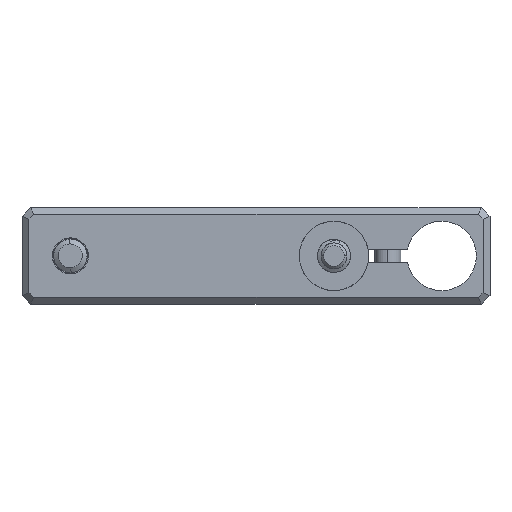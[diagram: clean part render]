
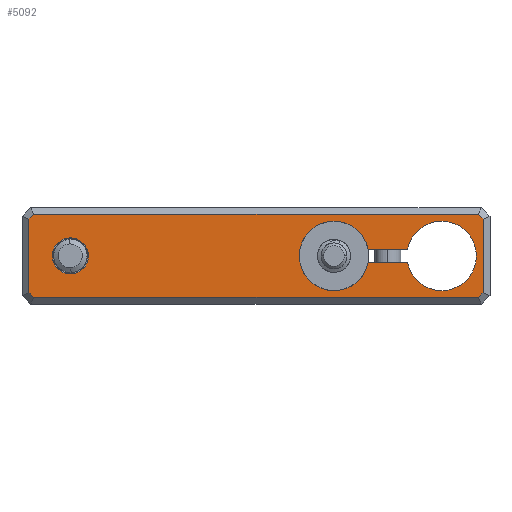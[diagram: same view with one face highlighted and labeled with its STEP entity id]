
A CAD part, front view. The second image highlights one B-rep face of the part: STEP entity #5092.
In plain terms, the highlighted planar face has unit normal (0, -1, 0).
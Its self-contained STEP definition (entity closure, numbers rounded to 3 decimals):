
#2371=DIRECTION('',(-1.,0.,0.));
#2372=VECTOR('',#2371,4.562);
#2373=CARTESIAN_POINT('',(38.984,82.55,0.762));
#2374=LINE('',#2373,#2372);
#2439=DIRECTION('',(1.,0.,0.));
#2440=VECTOR('',#2439,4.562);
#2441=CARTESIAN_POINT('',(34.422,82.55,-0.762));
#2442=LINE('',#2441,#2440);
#2462=CARTESIAN_POINT('',(42.926,82.55,0.));
#2463=DIRECTION('',(0.,1.,0.));
#2464=DIRECTION('',(-0.982,0.,0.19));
#2465=AXIS2_PLACEMENT_3D('',#2462,#2463,#2464);
#2467=CARTESIAN_POINT('',(0.,82.55,0.));
#2468=DIRECTION('',(0.,1.,0.));
#2469=DIRECTION('',(-1.,0.,0.));
#2470=AXIS2_PLACEMENT_3D('',#2467,#2468,#2469);
#2472=CARTESIAN_POINT('',(0.,82.55,0.));
#2473=DIRECTION('',(0.,1.,0.));
#2474=DIRECTION('',(1.,0.,0.));
#2475=AXIS2_PLACEMENT_3D('',#2472,#2473,#2474);
#2477=DIRECTION('',(-0.707,0.,0.707));
#2478=VECTOR('',#2477,0.751);
#2479=CARTESIAN_POINT('',(47.714,82.55,4.257));
#2480=LINE('',#2479,#2478);
#2481=DIRECTION('',(0.,0.,1.));
#2482=VECTOR('',#2481,8.513);
#2483=CARTESIAN_POINT('',(47.714,82.55,-4.257));
#2484=LINE('',#2483,#2482);
#2485=DIRECTION('',(0.707,0.,0.707));
#2486=VECTOR('',#2485,0.751);
#2487=CARTESIAN_POINT('',(47.183,82.55,-4.788));
#2488=LINE('',#2487,#2486);
#2489=DIRECTION('',(1.,0.,0.));
#2490=VECTOR('',#2489,51.439);
#2491=CARTESIAN_POINT('',(-4.257,82.55,-4.788));
#2492=LINE('',#2491,#2490);
#2493=DIRECTION('',(0.707,0.,-0.707));
#2494=VECTOR('',#2493,0.751);
#2495=CARTESIAN_POINT('',(-4.788,82.55,-4.257));
#2496=LINE('',#2495,#2494);
#2497=DIRECTION('',(0.,0.,-1.));
#2498=VECTOR('',#2497,8.513);
#2499=CARTESIAN_POINT('',(-4.788,82.55,4.257));
#2500=LINE('',#2499,#2498);
#2501=DIRECTION('',(-0.707,0.,-0.707));
#2502=VECTOR('',#2501,0.751);
#2503=CARTESIAN_POINT('',(-4.257,82.55,4.788));
#2504=LINE('',#2503,#2502);
#2505=DIRECTION('',(-1.,0.,0.));
#2506=VECTOR('',#2505,51.439);
#2507=CARTESIAN_POINT('',(47.183,82.55,4.788));
#2508=LINE('',#2507,#2506);
#2514=CARTESIAN_POINT('',(30.48,82.55,0.));
#2515=DIRECTION('',(0.,1.,0.));
#2516=DIRECTION('',(0.982,0.,-0.19));
#2517=AXIS2_PLACEMENT_3D('',#2514,#2515,#2516);
#4616=CARTESIAN_POINT('',(34.422,82.55,-0.762));
#4617=CARTESIAN_POINT('',(38.984,82.55,-0.762));
#4618=VERTEX_POINT('',#4616);
#4619=VERTEX_POINT('',#4617);
#4620=CARTESIAN_POINT('',(38.984,82.55,0.762));
#4621=CARTESIAN_POINT('',(34.422,82.55,0.762));
#4622=VERTEX_POINT('',#4620);
#4623=VERTEX_POINT('',#4621);
#4630=CARTESIAN_POINT('',(-2.,82.55,0.));
#4631=CARTESIAN_POINT('',(2.,82.55,0.));
#4632=VERTEX_POINT('',#4630);
#4633=VERTEX_POINT('',#4631);
#4736=CARTESIAN_POINT('',(47.714,82.55,4.257));
#4737=CARTESIAN_POINT('',(47.183,82.55,4.788));
#4738=VERTEX_POINT('',#4736);
#4739=VERTEX_POINT('',#4737);
#4744=CARTESIAN_POINT('',(-4.257,82.55,4.788));
#4745=VERTEX_POINT('',#4744);
#4750=CARTESIAN_POINT('',(-4.788,82.55,4.257));
#4751=VERTEX_POINT('',#4750);
#4754=CARTESIAN_POINT('',(-4.788,82.55,-4.257));
#4755=VERTEX_POINT('',#4754);
#4756=CARTESIAN_POINT('',(-4.257,82.55,-4.788));
#4757=VERTEX_POINT('',#4756);
#4762=CARTESIAN_POINT('',(47.183,82.55,-4.788));
#4763=VERTEX_POINT('',#4762);
#4766=CARTESIAN_POINT('',(47.714,82.55,-4.257));
#4767=VERTEX_POINT('',#4766);
#5056=CARTESIAN_POINT('',(0.,82.55,0.));
#5057=DIRECTION('',(0.,1.,0.));
#5058=DIRECTION('',(0.,0.,-1.));
#5059=AXIS2_PLACEMENT_3D('',#5056,#5057,#5058);
#5060=PLANE('',#5059);
#5062=ORIENTED_EDGE('',*,*,#5061,.F.);
#5064=ORIENTED_EDGE('',*,*,#5063,.F.);
#5066=ORIENTED_EDGE('',*,*,#5065,.F.);
#5068=ORIENTED_EDGE('',*,*,#5067,.F.);
#5070=ORIENTED_EDGE('',*,*,#5069,.F.);
#5072=ORIENTED_EDGE('',*,*,#5071,.F.);
#5074=ORIENTED_EDGE('',*,*,#5073,.F.);
#5076=ORIENTED_EDGE('',*,*,#5075,.F.);
#5077=EDGE_LOOP('',(#5062,#5064,#5066,#5068,#5070,#5072,#5074,#5076));
#5078=FACE_OUTER_BOUND('',#5077,.F.);
#5080=ORIENTED_EDGE('',*,*,#5079,.F.);
#5082=ORIENTED_EDGE('',*,*,#5081,.F.);
#5083=EDGE_LOOP('',(#5080,#5082));
#5084=FACE_BOUND('',#5083,.F.);
#5085=ORIENTED_EDGE('',*,*,#5050,.F.);
#5086=ORIENTED_EDGE('',*,*,#4971,.T.);
#5088=ORIENTED_EDGE('',*,*,#5087,.F.);
#5089=ORIENTED_EDGE('',*,*,#5030,.T.);
#5090=EDGE_LOOP('',(#5085,#5086,#5088,#5089));
#5091=FACE_BOUND('',#5090,.F.);
#5092=ADVANCED_FACE('',(#5078,#5084,#5091),#5060,.F.);
#2466=CIRCLE('',#2465,4.015);
#2471=CIRCLE('',#2470,2.);
#2476=CIRCLE('',#2475,2.);
#2518=CIRCLE('',#2517,4.015);
#4971=EDGE_CURVE('',#4622,#4623,#2374,.T.);
#5030=EDGE_CURVE('',#4618,#4619,#2442,.T.);
#5050=EDGE_CURVE('',#4622,#4619,#2466,.T.);
#5061=EDGE_CURVE('',#4738,#4739,#2480,.T.);
#5063=EDGE_CURVE('',#4767,#4738,#2484,.T.);
#5065=EDGE_CURVE('',#4763,#4767,#2488,.T.);
#5067=EDGE_CURVE('',#4757,#4763,#2492,.T.);
#5069=EDGE_CURVE('',#4755,#4757,#2496,.T.);
#5071=EDGE_CURVE('',#4751,#4755,#2500,.T.);
#5073=EDGE_CURVE('',#4745,#4751,#2504,.T.);
#5075=EDGE_CURVE('',#4739,#4745,#2508,.T.);
#5079=EDGE_CURVE('',#4632,#4633,#2471,.T.);
#5081=EDGE_CURVE('',#4633,#4632,#2476,.T.);
#5087=EDGE_CURVE('',#4618,#4623,#2518,.T.);
